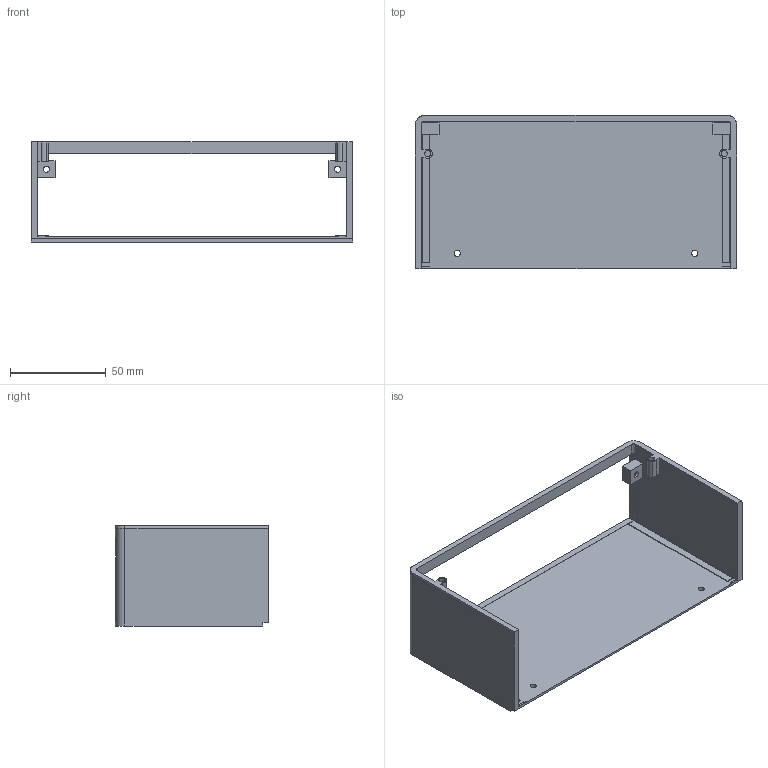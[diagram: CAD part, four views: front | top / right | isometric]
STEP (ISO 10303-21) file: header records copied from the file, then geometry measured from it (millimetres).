
FILE_DESCRIPTION(('Open CASCADE Model'),'2;1');
FILE_NAME('Open CASCADE Shape Model','2026-11-07T21:51:45',('Author'),( 'Open CASCADE'),'Open CASCADE STEP processor 7.9','Open CASCADE 7.9' ,'Unknown');
FILE_SCHEMA(('AUTOMOTIVE_DESIGN { 1 0 10303 214 1 1 1 1 }'));
Length unit declared in the file: millimetre
Products named in the file (1): Open CASCADE STEP translator 7.9 2
Bounding box: 168 x 80 x 52.2 mm (x, y, z)
Volume: 66382.9 mm3; surface area: 48651.5 mm2
Topology: 1 solids, 1 shells, 93 faces, 257 edges, 170 vertices
Faces by surface type: plane 64, cylinder 25, revolution 2, cone 2
Full cylindrical faces by diameter (mm): 3.2 x2, 3.23 x2, 3.3 x2, 3.89 x2
Entity records: 6950 total; most frequent: CARTESIAN_POINT 1967, DIRECTION 869, LINE 521, VECTOR 521, ORIENTED_EDGE 514, PCURVE 514, DEFINITIONAL_REPRESENTATION 514, EDGE_CURVE 257
